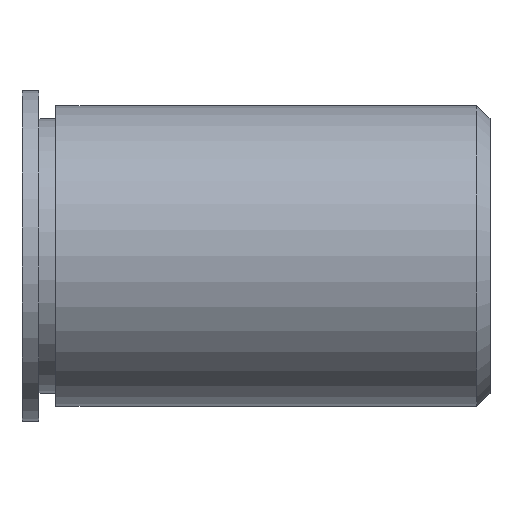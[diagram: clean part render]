
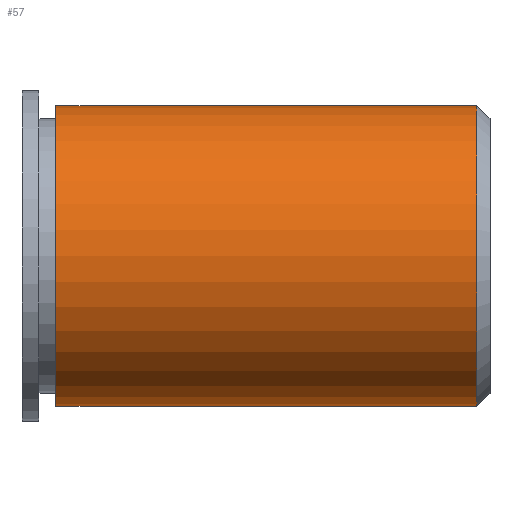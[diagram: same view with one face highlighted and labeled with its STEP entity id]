
A CAD part, top view. The second image highlights one B-rep face of the part: STEP entity #57.
In plain terms, the highlighted cylindrical face has radius 2.25 mm (diameter 4.5 mm), a partial arc.
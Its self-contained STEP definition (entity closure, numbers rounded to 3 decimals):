
#16 = DIRECTION ( 'NONE',  ( -1., 0., 0. ) ) ;
#18 = LINE ( 'NONE', #158, #258 ) ;
#28 = ORIENTED_EDGE ( 'NONE', *, *, #405, .F. ) ;
#30 = LINE ( 'NONE', #278, #470 ) ;
#53 = DIRECTION ( 'NONE',  ( 0., -1., 0. ) ) ;
#57 = ADVANCED_FACE ( 'NONE', ( #381 ), #485, .T. ) ;
#72 = EDGE_CURVE ( 'NONE', #466, #92, #142, .T. ) ;
#82 = EDGE_CURVE ( 'NONE', #92, #513, #30, .T. ) ;
#87 = EDGE_CURVE ( 'NONE', #466, #108, #18, .T. ) ;
#92 = VERTEX_POINT ( 'NONE', #326 ) ;
#108 = VERTEX_POINT ( 'NONE', #310 ) ;
#142 = CIRCLE ( 'NONE', #446, 2.25 ) ;
#158 = CARTESIAN_POINT ( 'NONE',  ( -67.825, -2.25, 0. ) ) ;
#168 = DIRECTION ( 'NONE',  ( -1., 0., 0. ) ) ;
#228 = DIRECTION ( 'NONE',  ( 0., -1., 0. ) ) ;
#250 = DIRECTION ( 'NONE',  ( -1., 0., 0. ) ) ;
#253 = CARTESIAN_POINT ( 'NONE',  ( 76.014, 0., 0. ) ) ;
#258 = VECTOR ( 'NONE', #168, 1000. ) ;
#278 = CARTESIAN_POINT ( 'NONE',  ( -67.825, 2.25, 0. ) ) ;
#302 = CARTESIAN_POINT ( 'NONE',  ( -67.825, 0., 0. ) ) ;
#307 = AXIS2_PLACEMENT_3D ( 'NONE', #479, #483, #484 ) ;
#310 = CARTESIAN_POINT ( 'NONE',  ( 69.722, -2.25, 0. ) ) ;
#324 = DIRECTION ( 'NONE',  ( -1., 0., 0. ) ) ;
#326 = CARTESIAN_POINT ( 'NONE',  ( 76.014, 2.25, 0. ) ) ;
#332 = ORIENTED_EDGE ( 'NONE', *, *, #87, .F. ) ;
#381 = FACE_OUTER_BOUND ( 'NONE', #526, .T. ) ;
#405 = EDGE_CURVE ( 'NONE', #108, #513, #434, .T. ) ;
#419 = AXIS2_PLACEMENT_3D ( 'NONE', #302, #324, #53 ) ;
#434 = CIRCLE ( 'NONE', #307, 2.25 ) ;
#444 = ORIENTED_EDGE ( 'NONE', *, *, #82, .T. ) ;
#446 = AXIS2_PLACEMENT_3D ( 'NONE', #253, #250, #228 ) ;
#466 = VERTEX_POINT ( 'NONE', #553 ) ;
#470 = VECTOR ( 'NONE', #16, 1000. ) ;
#479 = CARTESIAN_POINT ( 'NONE',  ( 69.722, 0., 0. ) ) ;
#483 = DIRECTION ( 'NONE',  ( -1., 0., 0. ) ) ;
#484 = DIRECTION ( 'NONE',  ( 0., -1., 0. ) ) ;
#485 = CYLINDRICAL_SURFACE ( 'NONE', #419, 2.25 ) ;
#499 = ORIENTED_EDGE ( 'NONE', *, *, #72, .T. ) ;
#513 = VERTEX_POINT ( 'NONE', #543 ) ;
#526 = EDGE_LOOP ( 'NONE', ( #499, #444, #28, #332 ) ) ;
#543 = CARTESIAN_POINT ( 'NONE',  ( 69.722, 2.25, 0. ) ) ;
#553 = CARTESIAN_POINT ( 'NONE',  ( 76.014, -2.25, 0. ) ) ;
